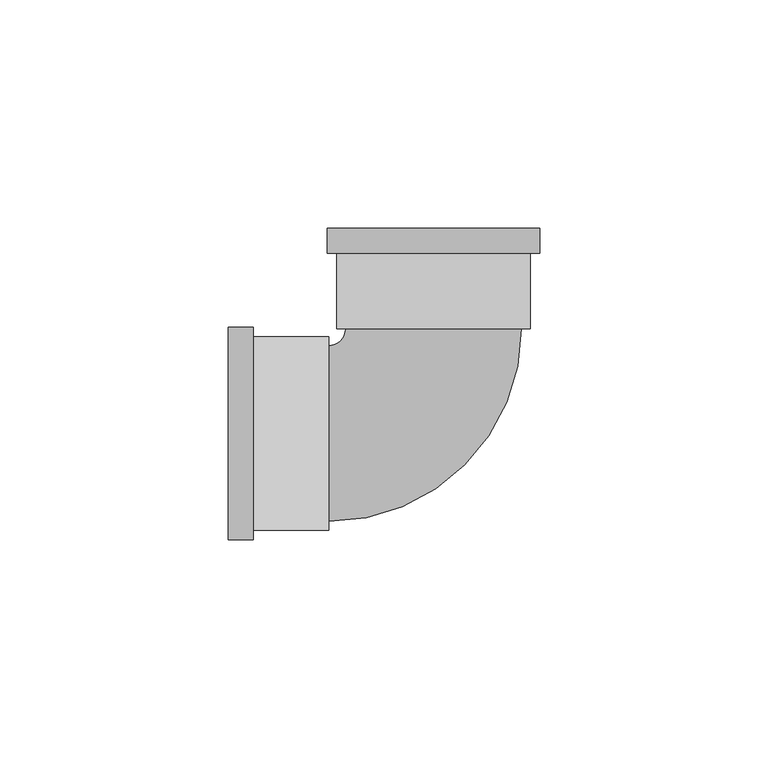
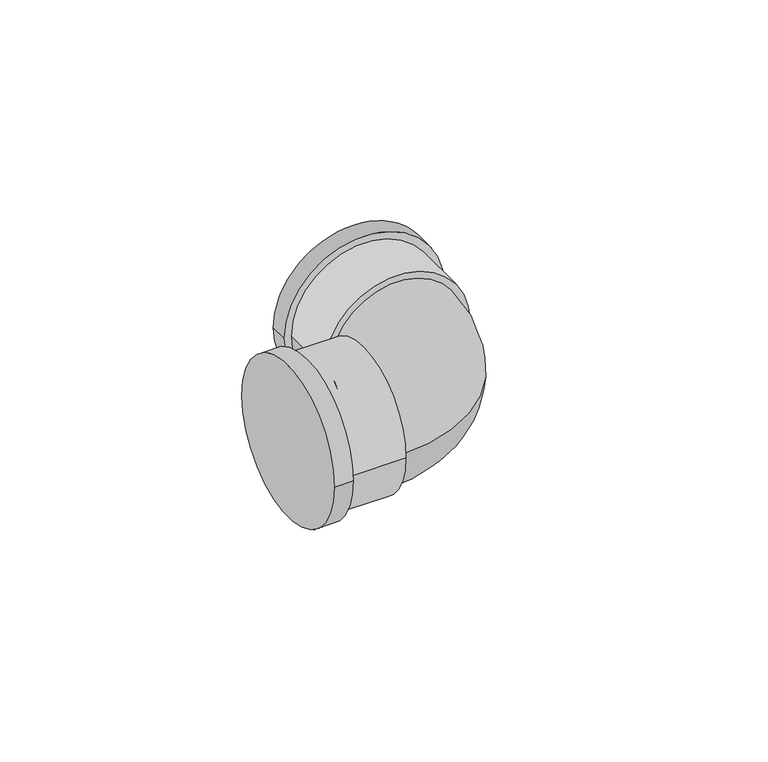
"""IFC4 building model written with IfcOpenShell, lengths in millimetres: pipe fitting geometry, Cotovelo - PVC - CW : Padrão."""

import ifcopenshell
import ifcopenshell.guid

model = None  # the IFC model being written
_history = None  # IfcOwnerHistory: only IFC2X3 demands one
_inside = {}  # id of a spatial element -> (the spatial element, [elements in it])
_under = {}  # id of a project, library or spatial element -> (it, [spatial elements below it])
_declared = {}  # id of a project -> (the project, [libraries it declares])
_typed = {}  # id of a type object -> (the type object, [elements of that type])
_made_of = {}  # id of a material, layer set ... -> (it, [elements and type objects made of it])


def new_model(schema):
    """Start an empty IFC model of exactly this schema.

    Asked for "IFC4X3", IfcOpenShell would pick the latest addendum, in which some entities
    have other attributes; the version numbers below select the first issue.
    IFC2X3 requires an IfcOwnerHistory on every rooted entity: one is made here for all.
    """
    global model, _history
    if schema == "IFC4X3":
        model = ifcopenshell.file(schema_version=(4, 3, 0, 0))
    else:
        model = ifcopenshell.file(schema=schema)
    _inside.clear()
    _under.clear()
    _declared.clear()
    _typed.clear()
    _made_of.clear()
    _history = None
    if model.schema == "IFC2X3":
        org = make("IfcOrganization", Name="unknown")
        user = make(
            "IfcPersonAndOrganization",
            ThePerson=make("IfcPerson", FamilyName="unknown"),
            TheOrganization=org,
        )
        app = make(
            "IfcApplication",
            ApplicationDeveloper=org,
            Version="unknown",
            ApplicationFullName="unknown",
            ApplicationIdentifier="unknown",
        )
        _history = make(
            "IfcOwnerHistory",
            OwningUser=user,
            OwningApplication=app,
            ChangeAction="ADDED",
            CreationDate=0,
        )
    return model


def make(cls, **values):
    """One entity of the class cls with the attributes given. An attribute that is None is left unset."""
    return model.create_entity(
        cls, **{name: value for name, value in values.items() if value is not None}
    )


def rooted(cls, **values):
    """An entity with a GlobalId (a new one), such as an element, a storey or a relation."""
    return make(cls, GlobalId=ifcopenshell.guid.new(), OwnerHistory=_history, **values)


def si_unit(unit_type, name, prefix=None):
    """IfcSIUnit, for example si_unit("LENGTHUNIT", "METRE", prefix="MILLI")."""
    return make("IfcSIUnit", UnitType=unit_type, Prefix=prefix, Name=name)


def assignment(units):
    """IfcUnitAssignment: the units of a project."""
    return None if units is None else make("IfcUnitAssignment", Units=units)


def point(xyz):
    """IfcCartesianPoint."""
    return None if xyz is None else make("IfcCartesianPoint", Coordinates=xyz)


def direction(xyz):
    """IfcDirection."""
    return None if xyz is None else make("IfcDirection", DirectionRatios=xyz)


def frame(location, z_axis=None, x_axis=None):
    """IfcAxis2Placement3D, a coordinate frame: its origin and axes. An axis left out is left unset."""
    return make(
        "IfcAxis2Placement3D",
        Location=point(location),
        Axis=direction(z_axis),
        RefDirection=direction(x_axis),
    )


def origin():
    """The frame at (0, 0, 0) with its axes left unset."""
    return frame((0.0, 0.0, 0.0))


def place(relative_to, where):
    """IfcLocalPlacement: puts the frame where relative to a parent placement (None: the world)."""
    return make(
        "IfcLocalPlacement", PlacementRelTo=relative_to, RelativePlacement=where
    )


def context(
    kind, dimensions, precision=None, world=None, true_north=None, identifier=None
):
    """IfcGeometricRepresentationContext, for example the 3D "Model" context."""
    return make(
        "IfcGeometricRepresentationContext",
        ContextIdentifier=identifier,
        ContextType=kind,
        CoordinateSpaceDimension=dimensions,
        Precision=precision,
        WorldCoordinateSystem=world,
        TrueNorth=true_north,
    )


def project(units=None, contexts=None):
    """IfcProject with its units and contexts."""
    return rooted(
        "IfcProject",
        Name="project",
        RepresentationContexts=contexts,
        UnitsInContext=assignment(units),
    )


def spatial(cls, under=None, at=None, **own):
    """A site, building, storey or space (cls), placed at a placement, below another one or the project."""
    s = rooted(cls, ObjectPlacement=at, **own)
    if under is not None:
        _under.setdefault(under.id(), (under, []))[1].append(s)
    return s


def circle_curve(where, radius):
    """IfcCircle in the frame where."""
    return make("IfcCircle", Position=where, Radius=radius)


def ellipse_curve(where, semi_axis1, semi_axis2):
    """IfcEllipse in the frame where."""
    return make(
        "IfcEllipse", Position=where, SemiAxis1=semi_axis1, SemiAxis2=semi_axis2
    )


def trimmed(basis, trim1, trim2, sense, master):
    """IfcTrimmedCurve: the piece of a basis curve between two trims."""
    return make(
        "IfcTrimmedCurve",
        BasisCurve=basis,
        Trim1=trim1,
        Trim2=trim2,
        SenseAgreement=sense,
        MasterRepresentation=master,
    )


def shape(context_of_items, identifier, shape_type, items):
    """IfcShapeRepresentation: the items that make up one representation, for example the "Body"."""
    return make(
        "IfcShapeRepresentation",
        ContextOfItems=context_of_items,
        RepresentationIdentifier=identifier,
        RepresentationType=shape_type,
        Items=items,
    )


def source(mapping_origin, context_of_items, identifier, shape_type, items):
    """IfcRepresentationMap: a shape defined once, which mapped items show again and again."""
    return make(
        "IfcRepresentationMap",
        MappingOrigin=mapping_origin,
        MappedRepresentation=shape(context_of_items, identifier, shape_type, items),
    )


def transform(
    local_origin,
    x_axis=None,
    y_axis=None,
    z_axis=None,
    scale=None,
    scale2=None,
    scale3=None,
    uniform=True,
):
    """IfcCartesianTransformationOperator3D, or its non-uniform kind. x_axis, y_axis, z_axis: its Axis1, 2, 3."""
    if uniform:
        return make(
            "IfcCartesianTransformationOperator3D",
            Axis1=direction(x_axis),
            Axis2=direction(y_axis),
            LocalOrigin=point(local_origin),
            Scale=scale,
            Axis3=direction(z_axis),
        )
    return make(
        "IfcCartesianTransformationOperator3DnonUniform",
        Axis1=direction(x_axis),
        Axis2=direction(y_axis),
        LocalOrigin=point(local_origin),
        Scale=scale,
        Axis3=direction(z_axis),
        Scale2=scale2,
        Scale3=scale3,
    )


def mapped(mapping_source, mapping_target):
    """IfcMappedItem: shows the shape of a source again, moved by a transform."""
    return make(
        "IfcMappedItem", MappingSource=mapping_source, MappingTarget=mapping_target
    )


def made_of(thing, what):
    """Note that an element or type object is made of a material, layer set ...; save() writes the relation."""
    if what is not None:
        _made_of.setdefault(what.id(), (what, []))[1].append(thing)
    return thing


def element(
    cls,
    number,
    at=None,
    inside=None,
    cuts=None,
    type_object=None,
    material=None,
    context=None,
    identifier="Body",
    shape_type=None,
    held_by="IfcProductDefinitionShape",
    body=None,
    shapes=None,
    **own,
):
    """One element of the class cls, such as IfcWall. Its Tag is "e" and its number.

    at: its placement. inside: the storey or other place that contains it. cuts: it is an
    opening in that element (IfcRelVoidsElement). A single representation is given by context,
    identifier, shape_type and body (its items); several are given by shapes. held_by: the class
    of the entity that holds the representations. save() writes the other relations.
    """
    e = rooted(cls, Tag="e%d" % number, ObjectPlacement=at, **own)
    if body is not None:
        shapes = [shape(context, identifier, shape_type, body)]
    if shapes is not None:
        e.Representation = make(held_by, Representations=shapes)
    if inside is not None:
        _inside.setdefault(inside.id(), (inside, []))[1].append(e)
    if cuts is not None:
        rooted(
            "IfcRelVoidsElement", RelatingBuildingElement=cuts, RelatedOpeningElement=e
        )
    if type_object is not None:
        _typed.setdefault(type_object.id(), (type_object, []))[1].append(e)
    return made_of(e, material)


def aggregate(whole, parts):
    """IfcRelAggregates: a whole, such as a stair, and the parts it consists of."""
    return rooted("IfcRelAggregates", RelatingObject=whole, RelatedObjects=parts)


def save(model, path):
    """Write the relations noted so far, then the file.

    IfcRelAggregates (storeys below a building ...), IfcRelContainedInSpatialStructure (elements
    in a storey), IfcRelDefinesByType, IfcRelAssociatesMaterial and IfcRelDeclares: one each for
    every whole, place, type object, material and project.
    """
    for whole, parts in _under.values():
        aggregate(whole, parts)
    for where, things in _inside.values():
        rooted(
            "IfcRelContainedInSpatialStructure",
            RelatedElements=things,
            RelatingStructure=where,
        )
    for kind, things in _typed.values():
        rooted("IfcRelDefinesByType", RelatedObjects=things, RelatingType=kind)
    for what, things in _made_of.values():
        rooted("IfcRelAssociatesMaterial", RelatedObjects=things, RelatingMaterial=what)
    for by, libraries in _declared.values():
        rooted("IfcRelDeclares", RelatingContext=by, RelatedDefinitions=libraries)
    model.write(path)


def plane_surface(at):
    """IfcPlane: the flat surface through the origin of the frame at, square to its z axis."""
    return make("IfcPlane", Position=at)


def cylinder_surface(at, radius):
    """IfcCylindricalSurface: all points at the distance radius from the z axis of the frame at."""
    return make("IfcCylindricalSurface", Position=at, Radius=radius)


def revolved_surface(curve, axis_point, axis_direction):
    """IfcSurfaceOfRevolution: the curve turned about the line through axis_point along axis_direction."""
    return make(
        "IfcSurfaceOfRevolution",
        SweptCurve=make("IfcArbitraryOpenProfileDef", ProfileType="CURVE", Curve=curve),
        AxisPosition=make("IfcAxis1Placement", Location=point(axis_point), Axis=direction(axis_direction)),
    )


def advanced_brep(points, edges, surfaces, faces):
    """IfcAdvancedBrep: a solid bounded by faces that lie on surfaces and meet in shared edges.

    An edge is (start, end): straight between two places in points (the first is 0);
    or (start, end, curve); or (start, end, curve, False) where it runs against its curve.
    A face is (place in surfaces, loops), or (place, loops, False) where it looks against
    its surface's normal. A loop lists edges by number (the first is 1), with a minus sign
    where the edge is run from its end to its start. The first loop is the outer one.
    """
    corners = [point(p) for p in points]
    vertices = [make("IfcVertexPoint", VertexGeometry=c) for c in corners]
    made = []
    for start, end, *more in edges:
        made.append(
            make(
                "IfcEdgeCurve",
                EdgeStart=vertices[start],
                EdgeEnd=vertices[end],
                EdgeGeometry=more[0] if more else make("IfcPolyline", Points=[corners[start], corners[end]]),
                SameSense=more[1] if len(more) > 1 else True,
            )
        )
    hull = []
    for where, loops, *sense in faces:
        bounds = []
        for j, loop in enumerate(loops):
            ring = [make("IfcOrientedEdge", EdgeElement=made[abs(k) - 1], Orientation=k > 0) for k in loop]
            bounds.append(
                make(
                    "IfcFaceOuterBound" if j == 0 else "IfcFaceBound",
                    Bound=make("IfcEdgeLoop", EdgeList=ring),
                    Orientation=True,
                )
            )
        hull.append(make("IfcAdvancedFace", Bounds=bounds, FaceSurface=surfaces[where], SameSense=sense[0] if sense else True))
    return make("IfcAdvancedBrep", Outer=make("IfcClosedShell", CfsFaces=hull))


def pipe_fitting_ad1066de(model_context):
    return source(origin(), model_context, "Body", "AdvancedBrep", [
        advanced_brep(
        [(-45.0003024, -23.2925, 0.0), (-45.0003024, 23.2925, 0.0), (-39.5003024, -23.2925, 0.0), (-39.5003024, 23.2925, 0.0), (-39.5003024, -21.175, 0.0), (-39.5003024, 21.175, 0.0), (-23.0003024, 21.175, 0.0), (-23.0003024, -21.175, 0.0), (-23.0003024, -19.25, 0.0), (-23.0003024, 19.25, 0.0), (-19.2503024, 23.0000493, 0.0), (19.2496976, 23.0005555, 0.0), (21.1746976, 23.0005808, 0.0), (-21.1753024, 23.000024, 0.0), (-23.2930916, 44.9999962, 0.0), (23.2919084, 45.0006086, 0.0), (21.1744807, 39.5005808, 0.0), (-21.1755193, 39.500024, 0.0), (-23.2930193, 39.4999962, 0.0), (23.2919807, 39.5006086, 0.0)],
        [
            (0, 1, circle_curve(frame((-45.0003024, 0.0, 0.0), z_axis=(-1.0, 0.0, 0.0), x_axis=(0.0, 1.0, 0.0)), 23.2925)),
            (1, 0, circle_curve(frame((-45.0003024, 0.0, 0.0), z_axis=(-1.0, 0.0, 0.0), x_axis=(0.0, 1.0, 0.0)), 23.2925)),
            (2, 3, circle_curve(frame((-39.5003024, 0.0, 0.0), z_axis=(1.0, 0.0, 0.0), x_axis=(0.0, 1.0, 0.0)), 23.2925)),
            (3, 2, circle_curve(frame((-39.5003024, 0.0, 0.0), z_axis=(1.0, 0.0, 0.0), x_axis=(0.0, 1.0, 0.0)), 23.2925)),
            (4, 5, circle_curve(frame((-39.5003024, 0.0, 0.0), z_axis=(-1.0, 0.0, 0.0), x_axis=(0.0, -1.0, 0.0)), 21.175)),
            (5, 4, circle_curve(frame((-39.5003024, 0.0, 0.0), z_axis=(-1.0, 0.0, 0.0), x_axis=(0.0, -1.0, 0.0)), 21.175)),
            (0, 2),
            (3, 1),
            (6, 7, circle_curve(frame((-23.0003024, 0.0, 0.0), z_axis=(1.0, 0.0, 0.0), x_axis=(0.0, -1.0, 0.0)), 21.175)),
            (7, 6, circle_curve(frame((-23.0003024, 0.0, 0.0), z_axis=(1.0, 0.0, 0.0), x_axis=(0.0, -1.0, 0.0)), 21.175)),
            (8, 9, circle_curve(frame((-23.0003024, 0.0, 0.0), z_axis=(-1.0, 0.0, 0.0), x_axis=(0.0, 1.0, 0.0)), 19.25)),
            (9, 8, circle_curve(frame((-23.0003024, 0.0, 0.0), z_axis=(-1.0, 0.0, 0.0), x_axis=(0.0, 1.0, 0.0)), 19.25)),
            (6, 5),
            (4, 7),
            (10, 9, circle_curve(frame((-23.0003024, 23.0, 0.0), z_axis=(0.0, 0.0, -1.0), x_axis=(0.0, -1.0, 0.0)), 3.75)),
            (8, 11, circle_curve(frame((-23.0003024, 23.0, 0.0), z_axis=(0.0, 0.0, 1.0), x_axis=(0.0, -1.0, 0.0)), 42.25)),
            (11, 10, circle_curve(frame((-0.0003024, 23.0003024, 0.0), z_axis=(1.3147117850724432e-05, -0.9999999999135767, 0.0), x_axis=(-0.9999999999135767, -1.3147117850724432e-05, 0.0)), 19.25)),
            (10, 11, circle_curve(frame((-0.0003024, 23.0003024, 0.0), z_axis=(1.3147117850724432e-05, -0.9999999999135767, 0.0), x_axis=(-0.9999999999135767, -1.3147117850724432e-05, 0.0)), 19.25)),
            (12, 13, circle_curve(frame((-0.0003024, 23.0003024, 0.0), z_axis=(1.314711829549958e-05, -0.9999999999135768, 0.0), x_axis=(-0.9999999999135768, -1.314711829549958e-05, 0.0)), 21.175)),
            (13, 12, circle_curve(frame((-0.0003024, 23.0003024, 0.0), z_axis=(1.314711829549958e-05, -0.9999999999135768, 0.0), x_axis=(-0.9999999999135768, -1.314711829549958e-05, 0.0)), 21.175)),
            (14, 15, circle_curve(frame((-0.0005916, 45.0003024, 0.0), z_axis=(-1.3147117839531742e-05, 0.9999999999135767, 0.0), x_axis=(0.9999999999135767, 1.3147117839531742e-05, 0.0)), 23.2925)),
            (15, 14, circle_curve(frame((-0.0005916, 45.0003024, 0.0), z_axis=(-1.3147117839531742e-05, 0.9999999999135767, 0.0), x_axis=(0.9999999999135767, 1.3147117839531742e-05, 0.0)), 23.2925)),
            (12, 16),
            (16, 17, circle_curve(frame((-0.0005193, 39.5003024, 0.0), z_axis=(1.314711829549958e-05, -0.9999999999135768, 0.0), x_axis=(-0.9999999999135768, -1.314711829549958e-05, 0.0)), 21.175)),
            (17, 13),
            (17, 16, circle_curve(frame((-0.0005193, 39.5003024, 0.0), z_axis=(1.314711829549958e-05, -0.9999999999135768, 0.0), x_axis=(-0.9999999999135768, -1.314711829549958e-05, 0.0)), 21.175)),
            (18, 19, circle_curve(frame((-0.0005193, 39.5003024, 0.0), z_axis=(1.3147117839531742e-05, -0.9999999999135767, 0.0), x_axis=(0.9999999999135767, 1.3147117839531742e-05, 0.0)), 23.2925)),
            (19, 18, circle_curve(frame((-0.0005193, 39.5003024, 0.0), z_axis=(1.3147117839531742e-05, -0.9999999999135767, 0.0), x_axis=(0.9999999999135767, 1.3147117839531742e-05, 0.0)), 23.2925)),
            (14, 18),
            (19, 15),
        ],
        [
            plane_surface(frame((-45.0003024, 0.0, 0.0), z_axis=(-1.0, 0.0, 0.0), x_axis=(0.0, 0.0, 1.0))),
            plane_surface(frame((-39.5003024, 0.0, 0.0), z_axis=(1.0, 0.0, 0.0), x_axis=(0.0, 0.0, 1.0))),
            cylinder_surface(frame((-45.0003024, 0.0, 0.0), z_axis=(-1.0, 0.0, 0.0), x_axis=(0.0, 1.0, 0.0)), 23.2925),
            plane_surface(frame((-23.0003024, 0.0, 0.0), z_axis=(1.0, 0.0, 0.0), x_axis=(0.0, 0.0, 1.0))),
            cylinder_surface(frame((-23.0003024, 0.0, 0.0), z_axis=(1.0, 0.0, 0.0), x_axis=(0.0, -1.0, 0.0)), 21.175),
            revolved_surface(trimmed(ellipse_curve(frame((-23.0003024, 0.0, 0.0), z_axis=(-1.0, 0.0, 0.0), x_axis=(0.0, 1.0, 0.0)), 19.25, 19.25), [point((-23.0003024, -19.25, 0.0))], [point((-23.0003024, 19.25, 0.0))], True, "CARTESIAN"), (-23.0003024, 23.0, 0.0), (0.0, 0.0, 1.0)),
            revolved_surface(trimmed(ellipse_curve(frame((-23.0003024, 0.0, 0.0), z_axis=(-1.0, 0.0, 0.0), x_axis=(0.0, 1.0, 0.0)), 19.25, 19.25), [point((-23.0003024, 19.25, 0.0))], [point((-23.0003024, -19.25, 0.0))], True, "CARTESIAN"), (-23.0003024, 23.0, 0.0), (0.0, 0.0, 1.0)),
            plane_surface(frame((-0.0003024, 23.0003024, 0.0), z_axis=(1.314711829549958e-05, -0.9999999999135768, 0.0), x_axis=(0.0, 0.0, 1.0))),
            plane_surface(frame((-0.0005916, 45.0003024, 0.0), z_axis=(-1.314711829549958e-05, 0.9999999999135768, 0.0), x_axis=(0.0, 0.0, 1.0))),
            cylinder_surface(frame((-0.0003024, 23.0003024, 0.0), z_axis=(1.314711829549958e-05, -0.9999999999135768, 0.0), x_axis=(-0.9999999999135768, -1.314711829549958e-05, 0.0)), 21.175),
            plane_surface(frame((-0.0005193, 39.5003024, 0.0), z_axis=(1.3147117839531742e-05, -0.9999999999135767, 0.0), x_axis=(0.0, 0.0, 1.0))),
            cylinder_surface(frame((-0.0005916, 45.0003024, 0.0), z_axis=(-1.3147117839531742e-05, 0.9999999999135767, 0.0), x_axis=(0.9999999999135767, 1.3147117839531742e-05, 0.0)), 23.2925),
        ],
        [
            (0, [[1, 2]]),
            (1, [[3, 4], [5, 6]]),
            (2, [[-1, 7, -4, 8]]),
            (2, [[-2, -8, -3, -7]]),
            (3, [[9, 10], [11, 12]]),
            (4, [[-9, 13, -5, 14]]),
            (4, [[-10, -14, -6, -13]]),
            (5, [[15, -11, 16, 17]]),
            (6, [[-15, 18, -16, -12]]),
            (7, [[19, 20], [-17, -18]]),
            (8, [[21, 22]]),
            (9, [[-19, 23, 24, 25]]),
            (9, [[-20, -25, 26, -23]]),
            (10, [[27, 28], [-24, -26]]),
            (11, [[-21, 29, -28, 30]]),
            (11, [[-22, -30, -27, -29]]),
        ],
    ),
    ])


if __name__ == "__main__":
    model = new_model("IFC4")
    model_context = context("Model", 3, world=origin())
    ifc_project = project(units=[si_unit("LENGTHUNIT", "METRE", prefix="MILLI")], contexts=[model_context])
    site = spatial("IfcSite", under=ifc_project)
    building = spatial("IfcBuilding", under=site)
    placement = place(None, origin())
    pipe_fitting_shape = pipe_fitting_ad1066de(model_context)
    element("IfcPipeFitting", 1, ObjectType="Cotovelo - PVC - CW : Padrão", at=placement, inside=building, context=model_context, shape_type="MappedRepresentation", body=[
        mapped(pipe_fitting_shape, transform((0.0, 0.0, 0.0), x_axis=(1.0, 0.0, 0.0), y_axis=(0.0, 1.0, 0.0), z_axis=(0.0, 0.0, 1.0))),
    ])
    save(model, "model.ifc")
